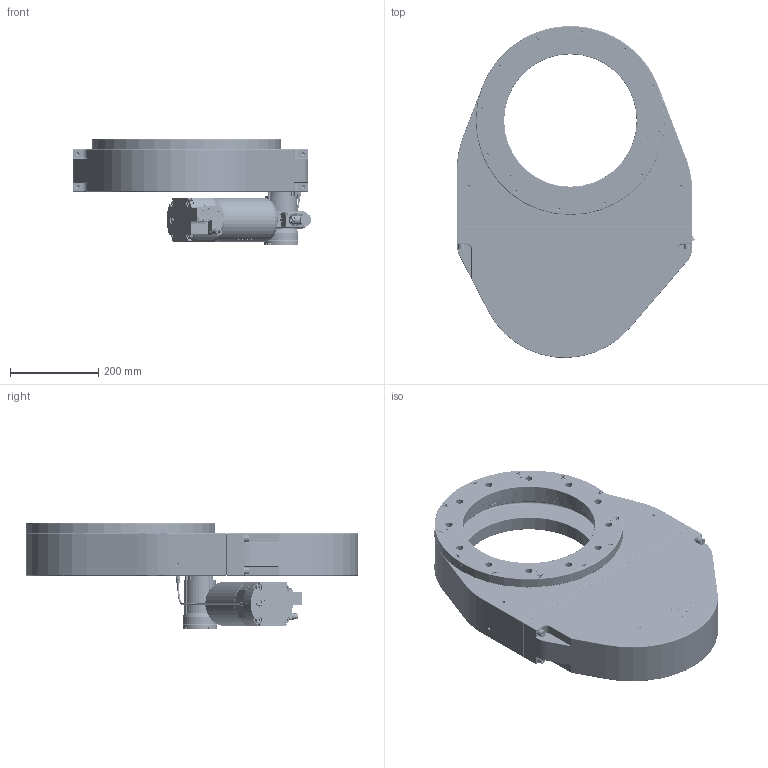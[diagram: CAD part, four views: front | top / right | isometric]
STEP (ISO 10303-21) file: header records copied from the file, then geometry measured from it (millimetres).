
FILE_DESCRIPTION(/* description */ (''),/* implementation_level */ '2;1');
FILE_NAME(/* name */ '1309923066_203.stp',/* time_stamp */ '2013-09-10T16:42:03+02:00',/* author */ (''),/* organization */ (''),/* preprocessor_version */ 'ST-DEVELOPER v11',/* originating_system */ 'SIEMENS PLM Software NX 7.5',/* authorisation */ '');
FILE_SCHEMA (('AP203_CONFIGURATION_CONTROLLED_3D_DESIGN_OF_MECHANICAL_PARTS_AND_ASSEMBLIES_MIM_LF'));
Length unit declared in the file: millimetre
Products named in the file (63): 75429-01_18537ID; 69252-01_18540ID; 69252-01_18539ID; 82555-01; N-8210-239; 82610-01; N-8406-007; N-8406-551; N-6030-011; 69672-01; N-8406-006_1; 467882; 437235; 69846-01; n-6024-531; N-8504-005.2; N-7557-016_1.1; N-7557-018.1; N-7557-016_2.1; N-6024-524.1; N-5018-005.1; 229270.2_18378ID; N-7636-200.2; N-6091-505.1; 548930; 557031; 310276.1; 311105.1; 309656.1; 246211.3; N-6071-446.1; 319296.3; 222717.1; N-5002-498.1; 244151.3; N-6091-462.1; 244326.2; 320171.1; 265274.6; 236055.1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
Assembly tree (108 placements, depth 5):
  321841
    N-6005-844.1  x4
    224833.1  x12
    247695.1
    n-6134-410  x4
    322193.3_NX-ARRAGMNTANTRIEB41
      308105.5
      309711.1
      322093.2  x3
      308477.4
      265277.4
      N-6203-418.1
      N-6121-017.2
      N-6005-502.1  x4
      248044.2
      236055.1  x2
      265274.6
      320171.1
      244326.2
      N-6091-462.1  x2
      244151.3
      N-5002-498.1
      222717.1  x2
      319296.3
      N-6071-446.1
      246211.3
      309656.1
      311105.1
      94800-R1.7_NX-ARRAGMNTKONFIG1
        N-5018-005.1  x2
        N-6024-524.1  x6
        N-7557-016_2.1
        N-7557-018.1
        N-7557-016_1.1
        N-7557-016_3.1_MODELNX-ARRAGMNTArrangement 1
          437235
          467882
      310276.1
      310926.1
        N-8504-005.2
        71852-r1_NX-ARRAGMNTZUSAMMENSTELLUNG
          N-8406-006_1
          69672-01
          N-6030-011  x4
          N-8406-551  x2
          N-8406-007
          82610-01
          N-8210-239  x4
          82555-01
        n-6024-531  x4
        69428-r1_MODEL
          69252-01_18539ID
          69252-01_18540ID
          75429-01_18537ID
        69846-01
      557031
    324415
    548924_NX-ARRAGMNTZUSAMMENST1
      548930
      N-6091-505.1  x6
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Bounding box: 539.58 x 751.79 x 240.8 mm (x, y, z)
Volume: 14329963.8 mm3; surface area: 2081156.5 mm2
Topology: 139 solids, 139 shells, 5178 faces, 12882 edges, 8257 vertices
Faces by surface type: plane 2479, cylinder 1053, bspline 544, cone 520, torus 336, extrusion 198, sphere 45, revolution 3
Full cylindrical faces by diameter (mm): 0.5 x2, 1 x7, 1.2 x10, 1.5 x11, 1.6 x6, 1.95 x4, 2 x6, 2.2 x4, 2.25 x4, 2.3 x4, 2.5 x22, 2.7 x4, 2.8 x4, 2.856 x4, 3 x25, 3.2 x4, 3.26 x3, 3.3 x7, 3.4 x10, 3.5 x7, 3.9 x4, 3.989 x2, 4 x17, 4.054 x2, 4.2 x6, 4.22 x1, 4.5 x6, 5 x15, 5.05 x1, 5.5 x1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
Entity records: 167396 total; most frequent: CARTESIAN_POINT 56314, ORIENTED_EDGE 20446, DIRECTION 18780, EDGE_CURVE 10223, AXIS2_PLACEMENT_3D 7186, VERTEX_POINT 7139, EDGE_LOOP 6007, ADVANCED_FACE 4514
